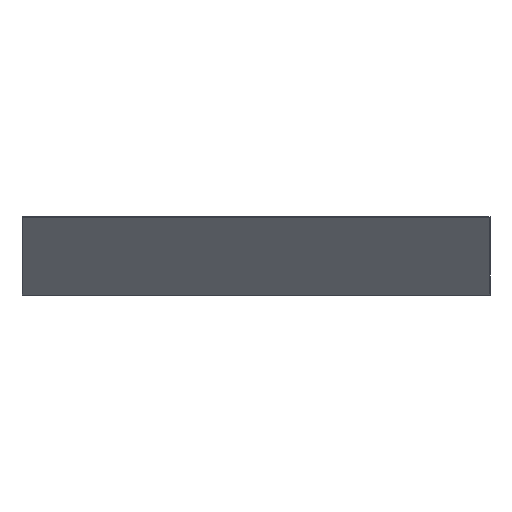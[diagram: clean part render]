
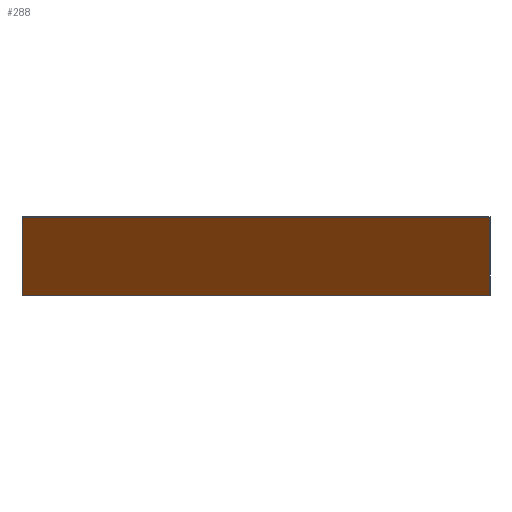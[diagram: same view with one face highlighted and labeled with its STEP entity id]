
A CAD part, left-side view. The second image highlights one B-rep face of the part: STEP entity #288.
In plain terms, the highlighted planar face has unit normal (-0.743, 0, -0.67).
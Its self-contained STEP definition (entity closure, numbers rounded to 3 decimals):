
#158=ORIENTED_EDGE('',*,*,#208,.T.);
#159=ORIENTED_EDGE('',*,*,#199,.T.);
#160=ORIENTED_EDGE('',*,*,#203,.T.);
#161=ORIENTED_EDGE('',*,*,#206,.T.);
#167=VECTOR('',#225,1.);
#171=VECTOR('',#231,1.);
#174=VECTOR('',#236,1.);
#176=VECTOR('',#240,1.);
#179=LINE('',#251,#167);
#183=LINE('',#259,#171);
#186=LINE('',#265,#174);
#188=LINE('',#268,#176);
#191=VERTEX_POINT('',#248);
#192=VERTEX_POINT('',#250);
#195=VERTEX_POINT('',#257);
#197=VERTEX_POINT('',#263);
#199=EDGE_CURVE('',#192,#191,#179,.T.);
#203=EDGE_CURVE('',#191,#195,#183,.T.);
#206=EDGE_CURVE('',#195,#197,#186,.T.);
#208=EDGE_CURVE('',#197,#192,#188,.T.);
#214=EDGE_LOOP('',(#158,#159,#160,#161));
#220=FACE_BOUND('',#214,.T.);
#225=DIRECTION('',(0.,-60.,0.));
#231=DIRECTION('',(-9.018,0.,10.));
#236=DIRECTION('',(0.,60.,0.));
#240=DIRECTION('',(9.018,0.,-10.));
#242=DIRECTION('',(-0.743,0.,-0.67));
#243=DIRECTION('',(0.,0.743,0.));
#248=CARTESIAN_POINT('',(-642.684,-30.,-5.));
#250=CARTESIAN_POINT('',(-642.684,30.,-5.));
#251=CARTESIAN_POINT('',(-642.684,30.,-5.));
#257=CARTESIAN_POINT('',(-651.702,-30.,5.));
#259=CARTESIAN_POINT('',(-642.684,-30.,-5.));
#263=CARTESIAN_POINT('',(-651.702,30.,5.));
#265=CARTESIAN_POINT('',(-651.702,-30.,5.));
#268=CARTESIAN_POINT('',(-651.702,30.,5.));
#270=CARTESIAN_POINT('',(-472.606,30.,-193.601));
#276=AXIS2_PLACEMENT_3D('',#270,#242,#243);
#282=PLANE('',#276);
#288=ADVANCED_FACE('',(#220),#282,.T.);
